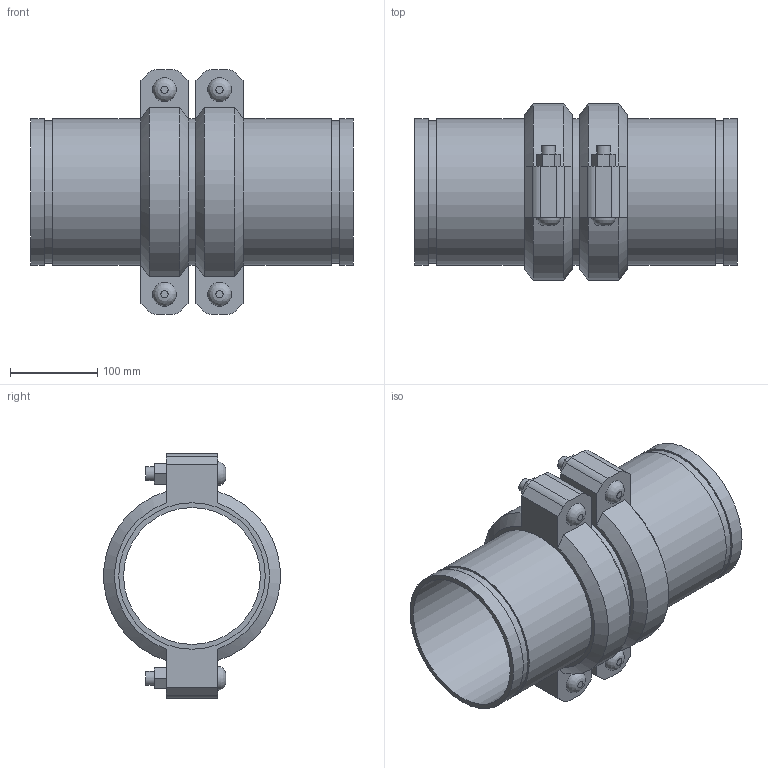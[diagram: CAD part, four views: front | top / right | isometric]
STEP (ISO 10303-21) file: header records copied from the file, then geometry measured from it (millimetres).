
FILE_DESCRIPTION(/* description */ ('VIC SS EXPANSION JOINT 2 COUPLINGS NEUTRAL STYLE 155P (OGS) (POTABLE WATER) ','CAx-IF Rec.Pracs.---Representation and Presentation of Product Manufacturing Information (PMI)---4.0---2014-10-13'),/* implementation_level */ '2;1');
FILE_NAME(/* name */ 'C:\Users\kkamble\AppData\Roaming\Autodesk\ApplicationPlugins\Victaulic.Temp\A659\Victaulic_SS_Expansion Joint_Neutral_2 Couplings_Style 155P (OGS)-Potable Water_2 Coup_Neut_6 (150).stp',/* time_stamp */ '2021-07-16T16:31:12+05:00',/* author */ ('kkamble'),/* organization */ ('Victaulic'),/* preprocessor_version */ 'ST-DEVELOPER v17.2',/* originating_system */ 'Autodesk Inventor 2019',/* authorisation */ '');
FILE_SCHEMA (('AP242_MANAGED_MODEL_BASED_3D_ENGINEERING_MIM_LF { 1 0 10303 442 1 1 4 }'));
Length unit declared in the file: inch
Products named in the file (4): 155P-06.0; Nipple-06.0; Nipple-06.0_1; 075-06.0
Assembly tree (5 placements, depth 2):
  155P-06.0
    Nipple-06.0  x2
    Nipple-06.0_1
    075-06.0  x2
Bounding box: 370.84 x 202.46 x 281.18 mm (x, y, z)
Volume: 2484278.8 mm3; surface area: 629610.5 mm2
Topology: 5 solids, 9 shells, 150 faces, 356 edges, 252 vertices
Faces by surface type: plane 90, cylinder 48, cone 8, bspline 4
Full cylindrical faces by diameter (mm): 15.875 x8, 17.424 x4, 157.15 x3, 161.925 x2, 163.957 x6, 168.275 x13
Entity records: 2753 total; most frequent: CARTESIAN_POINT 489, DIRECTION 453, ORIENTED_EDGE 386, EDGE_CURVE 193, AXIS2_PLACEMENT_3D 180, VERTEX_POINT 138, EDGE_LOOP 107, LINE 93
